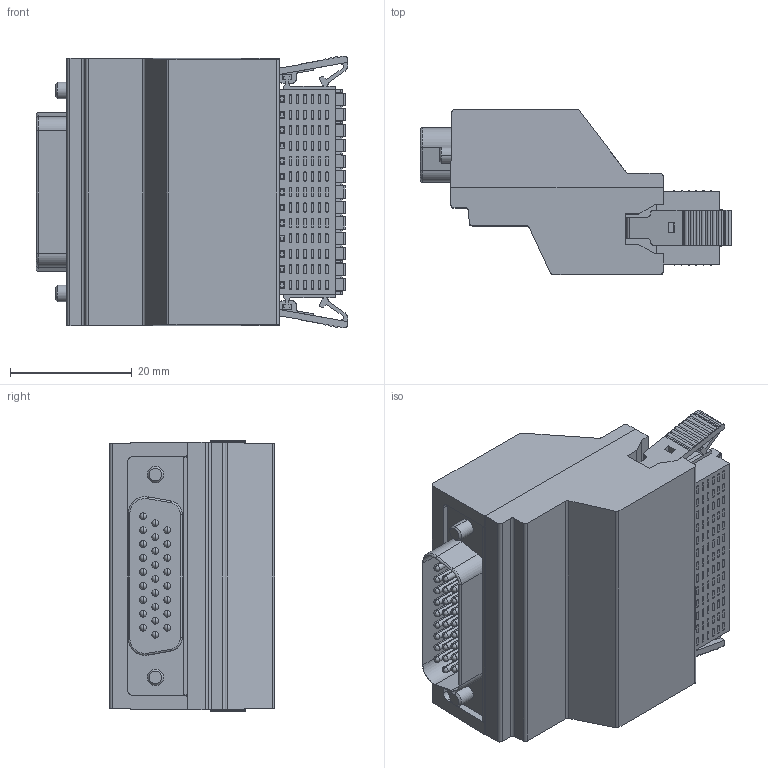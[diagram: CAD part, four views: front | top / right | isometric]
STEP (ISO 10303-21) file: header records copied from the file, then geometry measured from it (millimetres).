
FILE_DESCRIPTION((''),'2;1');
FILE_NAME('A002489122_ASM','2024-04-29T',('Minghe.Zhang'),(''),'CREO PARAMETRIC BY PTC INC, 2016260','CREO PARAMETRIC BY PTC INC, 2016260','');
FILE_SCHEMA(('CONFIG_CONTROL_DESIGN'));
Products named in the file (3): DINKLE_A015-6126; DINKLE_0156-1C-S1501426; A002489122_ASM
Assembly tree (2 placements, depth 2):
  A002489122_ASM
    DINKLE_A015-6126
    DINKLE_0156-1C-S1501426
Bounding box: 51.1 x 27.1 x 44.58 mm (x, y, z)
Volume: 34035.2 mm3; surface area: 14627 mm2
Topology: 2 solids, 2 shells, 4372 faces, 11532 edges, 7491 vertices
Faces by surface type: plane 2809, cylinder 1020, revolution 312, cone 108, sphere 52, torus 51, bspline 12, extrusion 8
Entity records: 160307 total; most frequent: CARTESIAN_POINT 43071, ORIENTED_EDGE 22960, DIRECTION 20838, EDGE_CURVE 11480, VECTOR 7796, LINE 7788, VERTEX_POINT 7491, AXIS2_PLACEMENT_3D 6365
